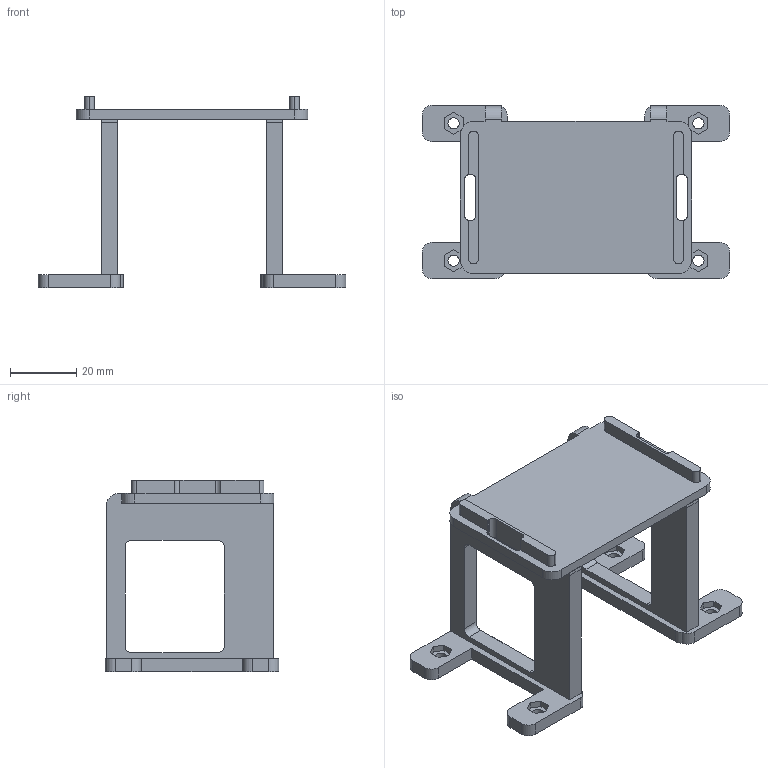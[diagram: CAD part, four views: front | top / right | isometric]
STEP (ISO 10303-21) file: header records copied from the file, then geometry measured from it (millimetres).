
FILE_DESCRIPTION(('FreeCAD Model'),'2;1');
FILE_NAME('Open CASCADE Shape Model','2026-10-18T22:43:11',('FreeCAD'),( 'FreeCAD'),'Open CASCADE STEP processor 7.8','FreeCAD','Unknown');
FILE_SCHEMA(('AUTOMOTIVE_DESIGN { 1 0 10303 214 1 1 1 1 }'));
Length unit declared in the file: millimetre
Products named in the file (1): Open CASCADE STEP translator 7.8 6
Bounding box: 93 x 52.5 x 58 mm (x, y, z)
Volume: 30025.2 mm3; surface area: 19440.1 mm2
Topology: 1 solids, 1 shells, 146 faces, 418 edges, 278 vertices
Faces by surface type: plane 92, cylinder 54
Full cylindrical faces by diameter (mm): 3.4 x4
Entity records: 4914 total; most frequent: CARTESIAN_POINT 947, ORIENTED_EDGE 836, DIRECTION 818, EDGE_CURVE 418, LINE 304, VECTOR 304, VERTEX_POINT 278, AXIS2_PLACEMENT_3D 257
